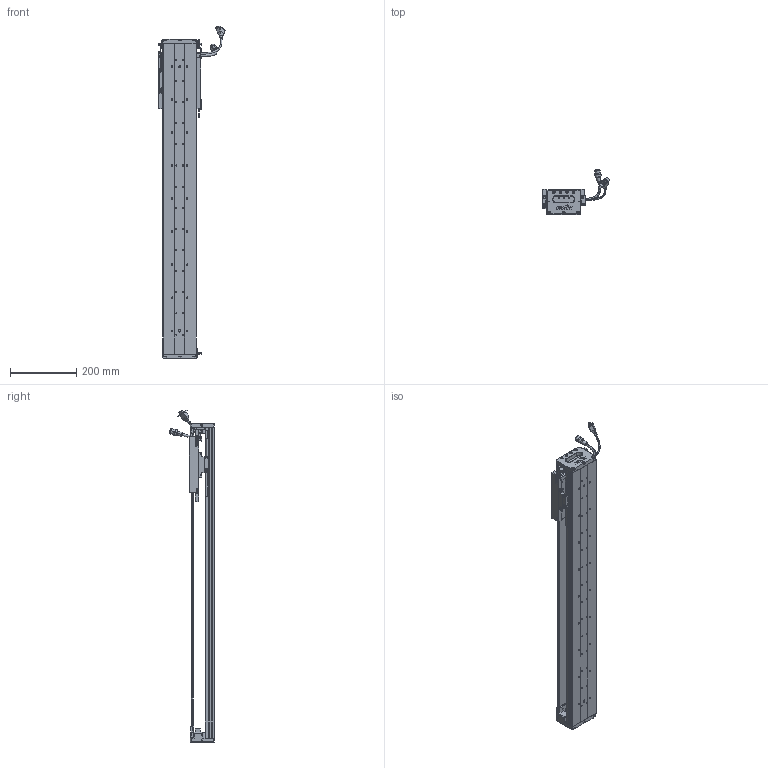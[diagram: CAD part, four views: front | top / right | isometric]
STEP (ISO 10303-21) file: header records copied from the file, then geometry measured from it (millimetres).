
FILE_DESCRIPTION (( 'STEP AP203' ), '1' );
FILE_NAME ('Z2-RY100D-1-L500-B-K.SLDASM_0700.step', '2021-05-17T02:35:28', ( '盈信电脑' ), ( '东莞市道滘镇水果街19号' ), 'SwSTEP 2.0', 'SolidWorks 2016', '' );
FILE_SCHEMA (( 'CONFIG_CONTROL_DESIGN' ));
Length unit declared in the file: millimetre
Products named in the file (36): Z-RY100D覜茼んえ; HARNESS-Part-1; SCALE-Part-2; SHIELDPLATE; LABEL; SCALE-Part-1; COVER; Z2-RY100铝滑块（21款）; 140雄赽晤鎢ん堤盄; HOLDER0; 080黍杅芛假蚾釱21遴; SCREW-M1.6-3; SEAL; SCREW-M1.7; HARNESS; SEAL-Part-1; 覜茼ん672; COVER-Part-1; Z2-RY100D-1-L500-B-K.SLDASM_0700; 100-Z-臏賑輸盄裔(21遴); SCREW-M1.6; Z2-RY100-L500詩湍90mm遵_0700; SCALE; HARNESS-Part-2; Z-RY100D詩湍狟揤裔; PSLH080_PSLF2; LABEL-Part-1; PBU_SHEET; 140蚥薯蝶輸; SCREW-M1.6-2; SCREW-M1.7-1; Z-100詩湍傷裔啣; 榋妏寠巭燃_暯_M2_2; Z-RY100D詩湍奻揤裔; SCREW-M1.6-1; Z2-RY100D-500-倰第菁釱_0700
Assembly tree (43 placements, depth 4):
  Z2-RY100D-1-L500-B-K.SLDASM_0700
    Z2-RY100D-500-倰第菁釱_0700
    Z2-RY100铝滑块（21款）
    PSLH080_PSLF2
      SCALE
        SCALE-Part-1
        SCALE-Part-2
      HARNESS
        HARNESS-Part-1
        HARNESS-Part-2
      LABEL
        LABEL-Part-1
      COVER
        COVER-Part-1
      SEAL
        SEAL-Part-1
      榋妏寠巭燃_暯_M2_2
      SHIELDPLATE
      SCREW-M1.7
      SCREW-M1.7-1
      PBU_SHEET
      SCREW-M1.6
      SCREW-M1.6-1
      SCREW-M1.6-2
      SCREW-M1.6-3
      HOLDER0
    080黍杅芛假蚾釱21遴
    Z-100詩湍傷裔啣  x2
    140蚥薯蝶輸  x2
    覜茼ん672  x3
    Z-RY100D覜茼んえ  x3
    100-Z-臏賑輸盄裔(21遴)
    140雄赽晤鎢ん堤盄
    Z2-RY100-L500詩湍90mm遵_0700
    Z-RY100D詩湍狟揤裔  x2
    Z-RY100D詩湍奻揤裔  x2
Bounding box: 205.84 x 136.11 x 1005.43 mm (x, y, z)
Volume: 2129573.8 mm3; surface area: 820608.3 mm2
Topology: 38 solids, 38 shells, 2528 faces, 6615 edges, 4184 vertices
Faces by surface type: plane 1114, cylinder 1074, cone 218, torus 69, bspline 53
Entity records: 68243 total; most frequent: CARTESIAN_POINT 14428, DIRECTION 10759, ORIENTED_EDGE 10126, EDGE_CURVE 5063, AXIS2_PLACEMENT_3D 3939, VERTEX_POINT 3252, LINE 2881, VECTOR 2881
